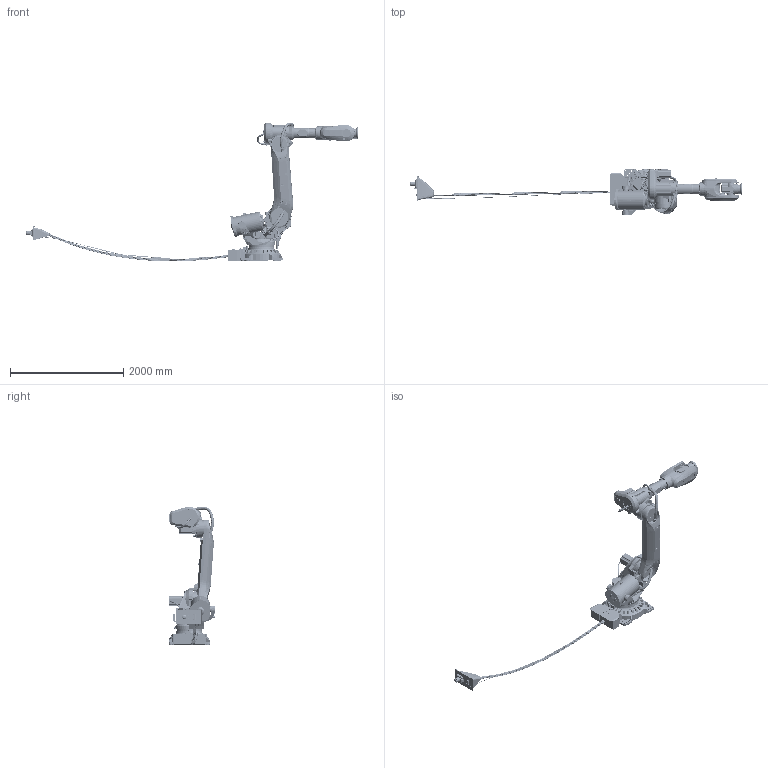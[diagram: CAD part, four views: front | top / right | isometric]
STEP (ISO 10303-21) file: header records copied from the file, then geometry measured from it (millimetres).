
FILE_DESCRIPTION(/* description */ (''),/* implementation_level */ '2;1');
FILE_NAME(/* name */ 'E:\组装完成的图纸\IRB 6790\IRB 6790-205-2.8\IRB 6790-205-2.8.stp',/* time_stamp */ '2023-10-31T15:59:58+08:00',/* author */ ('Administrator'),/* organization */ (''),/* preprocessor_version */ 'ST-DEVELOPER v16.5',/* originating_system */ 'Autodesk Inventor 2017',/* authorisation */ '');
FILE_SCHEMA (('AUTOMOTIVE_DESIGN { 1 0 10303 214 3 1 1 }'));
Products named in the file (17): 部件3; IRB6700'6790_205-280_IRC5_rev00_LOGO1_CAD; IRB6700'6790_205-280_IRC5_rev00_LOGO2_CAD; IRB6700'6790_205-280_IRC5_rev00_LOGO3_CAD; IRB6700'6790_205-280_IRC5_rev01_BASE_CAD; IRB6700'6790_205-280_IRC5_rev01_LINK02m_CABLE; IRB6700'6790_205-280_IRC5_rev02_LINK01m_CABLE; IRB6700'6790_205-280_IRC5_rev02_LINK03m_CABLE; IRB6700'6790_205-280_IRC5_rev02_LINK04_CAD; IRB6700'6790_205-280_IRC5_rev02_LINK06_CAD; IRB6700'6790_205-280_IRC5_rev03_LINK02_CAD; IRB6700'6790_205-280_IRC5_rev03_ROD_CAD; IRB6700'6790_205-280_IRC5_rev04_LINK05_CAD; IRB6700'6790_205-280_IRC5_rev05_LINK03_CAD; IRB6700'6790_205-280_IRC5_rev06_CYLINDER_CAD; IRB6700'6790_205-280_IRC5_rev06_LINK01_CAD; IRB6790_IRC5_rev_00_harness
Assembly tree (1 placements, depth 2):
  部件3
    IRB6790_IRC5_rev_00_harness
  IRB6700'6790_205-280_IRC5_rev00_LOGO1_CAD
  IRB6700'6790_205-280_IRC5_rev00_LOGO2_CAD
  IRB6700'6790_205-280_IRC5_rev00_LOGO3_CAD
  IRB6700'6790_205-280_IRC5_rev01_BASE_CAD
Bounding box: 5851.16 x 816 x 2445.25 mm (x, y, z)
Volume: 452705482.1 mm3; surface area: 14792863.1 mm2
Topology: 19 solids, 21 shells, 6923 faces, 18180 edges, 11662 vertices
Faces by surface type: plane 3823, cylinder 1591, cone 678, bspline 627, torus 158, sphere 46
Full cylindrical faces by diameter (mm): 3 x4, 5 x23, 5.5 x3, 6 x31, 6.4 x1, 6.5 x6, 6.6 x9, 6.8 x12, 6.9 x1, 7 x16, 7.1 x2, 7.4 x2, 7.5 x8, 8 x5, 8.1 x2, 8.3 x4, 8.5 x4, 8.6 x4, 8.8 x4, 9 x5, 10 x5, 10.08 x2, 10.2 x37, 11.05 x4, 11.5 x4, 11.8 x8, 12 x9, 12.5 x6, 13 x3, 13.8 x3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
Entity records: 335644 total; most frequent: CARTESIAN_POINT 170056, ORIENTED_EDGE 34400, DIRECTION 32177, EDGE_CURVE 17200, VERTEX_POINT 11407, AXIS2_PLACEMENT_3D 11193, LINE 9791, VECTOR 9791
